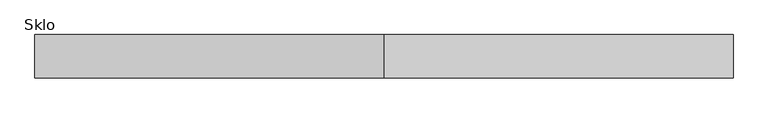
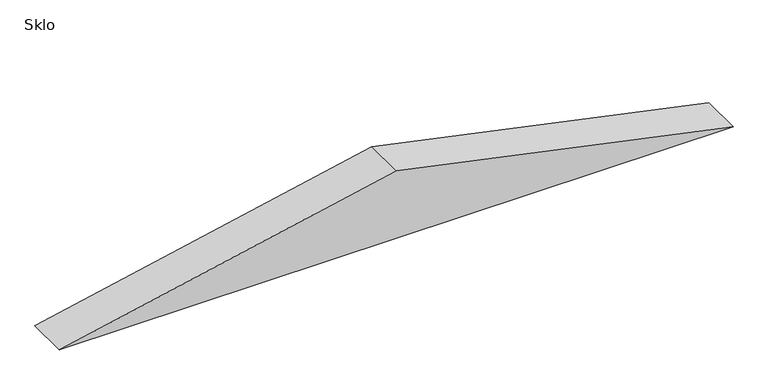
"""IFC4 building model written with IfcOpenShell, lengths in millimetres: plate geometry, Systémový panel : Sklo."""

from ifc_helpers import new_model, si_unit, frame, origin, place, context, project, spatial, polyline, outline, extrude, source, transform, mapped, element, save


def sklo_9e8ff6f6(model_context):
    return source(origin(), model_context, "Body", "SweptSolid", [
        extrude(outline(polyline([(0.0, -805.3698906), (0.0, 805.3698906), (171.1866548, 0.0), (0.0, -805.3698906)])), frame((0.0, 50.0, 0.0), z_axis=(0.0, 1.0, 0.0), x_axis=(0.0, 0.0, 1.0)), (0.0, 0.0, 1.0), 100.0),
    ])


if __name__ == "__main__":
    model = new_model("IFC4")
    model_context = context("Model", 3, world=origin())
    ifc_project = project(units=[si_unit("LENGTHUNIT", "METRE", prefix="MILLI")], contexts=[model_context])
    site = spatial("IfcSite", under=ifc_project)
    building = spatial("IfcBuilding", under=site)
    placement = place(None, origin())
    sklo_shape = sklo_9e8ff6f6(model_context)
    element("IfcPlate", 1, ObjectType="Systémový panel : Sklo", at=placement, inside=building, context=model_context, shape_type="MappedRepresentation", body=[
        mapped(sklo_shape, transform((0.0, 0.0, 0.0), x_axis=(1.0, 0.0, 0.0), y_axis=(0.0, 1.0, 0.0), z_axis=(0.0, 0.0, 1.0))),
    ])
    save(model, "model.ifc")
